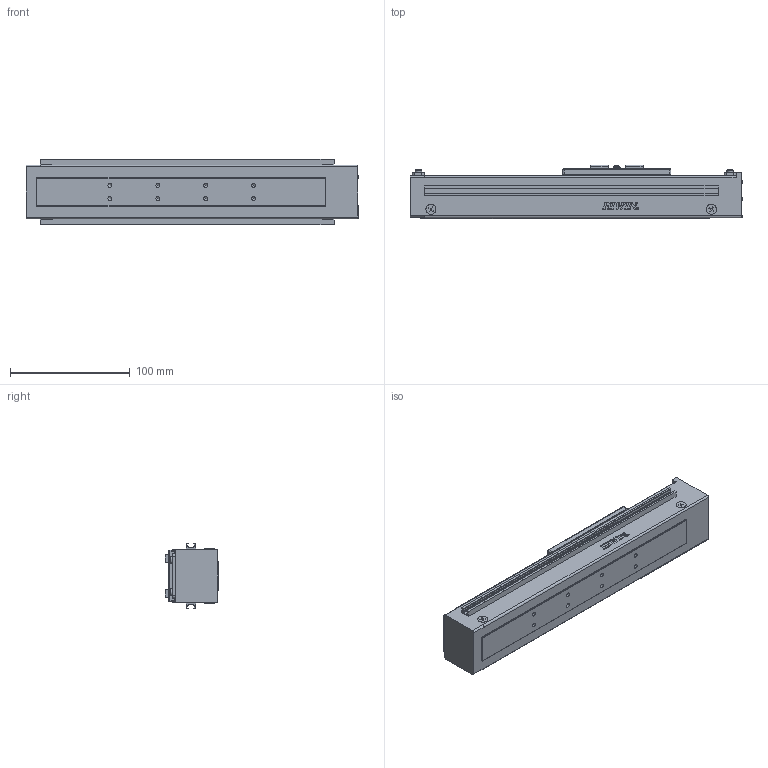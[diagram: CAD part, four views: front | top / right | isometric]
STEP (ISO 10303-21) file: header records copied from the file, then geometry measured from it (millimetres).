
FILE_DESCRIPTION(/* description */ (''),/* implementation_level */ '2;1');
FILE_NAME(/* name */ 'D:\混合母檔20191031\混和母檔\混和母檔\bin\Debug\Download\3D\KE402C-100AF0\KE402C-100AF0.stp',/* time_stamp */ '2019-11-04T13:34:23+08:00',/* author */ ('user'),/* organization */ (''),/* preprocessor_version */ 'ST-DEVELOPER v16.13',/* originating_system */ 'Autodesk Inventor 2018',/* authorisation */ '');
FILE_SCHEMA (('AUTOMOTIVE_DESIGN { 1 0 10303 214 3 1 1 }'));
Length unit declared in the file: millimetre
Products named in the file (3): KE402C-100AF0; KE40-F0-BP; KE40-SL
Assembly tree (2 placements, depth 2):
  KE402C-100AF0
    KE40-F0-BP
    KE40-SL
Bounding box: 277 x 45 x 55 mm (x, y, z)
Volume: 455196.5 mm3; surface area: 77090.9 mm2
Topology: 3 solids, 15 shells, 926 faces, 2500 edges, 1642 vertices
Faces by surface type: plane 471, cone 154, bspline 136, cylinder 93, torus 62, sphere 10
Full cylindrical faces by diameter (mm): 2.459 x6, 2.5 x2, 2.729 x6, 3 x6, 3.242 x8, 3.3 x4, 3.5 x6, 4 x4, 8.4 x8, 20 x1
Entity records: 34187 total; most frequent: CARTESIAN_POINT 12061, ORIENTED_EDGE 4730, DIRECTION 4204, EDGE_CURVE 2365, VERTEX_POINT 1601, AXIS2_PLACEMENT_3D 1419, LINE 1366, VECTOR 1366
